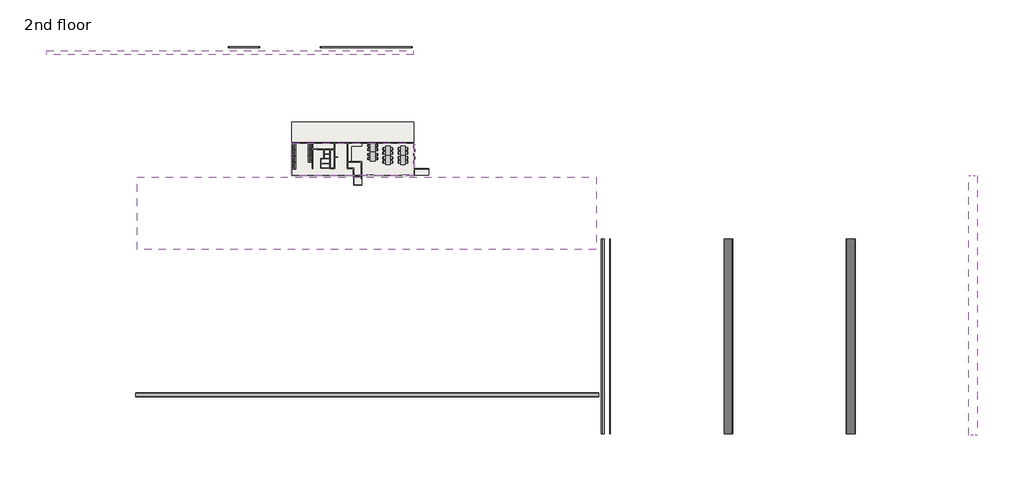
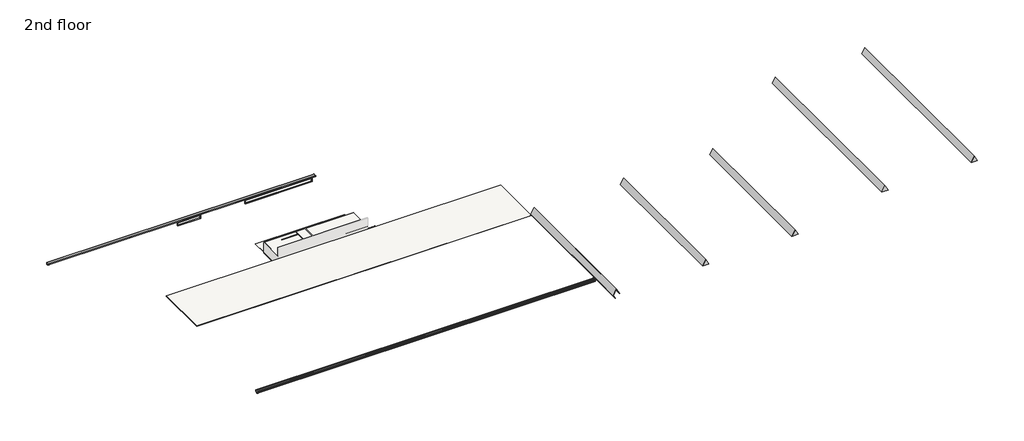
# One storey, part 2 of 2: 30 furniture elements, 12 proxies, 5 slabs, 4 members, 3 railings, 1 plate.
"""IFC4 building model written with IfcOpenShell, lengths in millimetres."""

from ifc_helpers import new_model, si_unit, frame, origin, place, context, project, spatial, polyline, outline, extrude, faceted_brep, transform, mapped, element, save
from components import generic_models_18_generic_models_2_20c2d646, generic_models_19_generic_models_2_e4446f8d, generic_models_27_generic_models_12_64bb000c, generic_models_28_generic_models_12_b416c1af, generic_models_43_generic_models_43_56a40571, locker_locker_ffae811c, desk_900x1800_desk_900x1800_b530369f, m_chair_desk_desk_chair_ccc35c8f, m_chair_desk_desk_chair_1723cfae, rectangular_mullion_50_x_150mm_6053375a, rectangular_mullion_50_x_150mm_cc4d4c51, rectangular_mullion_50_x_150mm_379ba6c0, rectangular_mullion_50_x_150mm_e3a7335b, system_panel_glazed_3a8728e6

model = new_model("IFC4")

# Units and contexts
model_context = context("Model", 3, world=origin())
ifc_project = project(units=[si_unit("LENGTHUNIT", "METRE", prefix="MILLI")], contexts=[model_context])

# Site, building, storey
site = spatial("IfcSite", under=ifc_project)
building = spatial("IfcBuilding", under=site)
storey = spatial("IfcBuildingStorey", under=building, Name="2nd floor", Elevation=51027.1066037)

# Proxies
placement = place(None, origin())
generic_models_18_generic_models_2_shape = generic_models_18_generic_models_2_20c2d646(model_context)
element("IfcBuildingElementProxy", 1, Name="Generic Models 18 : Generic Models 2", ObjectType="Generic Models 18 : Generic Models 2", at=placement, inside=storey, context=model_context, shape_type="MappedRepresentation", body=[
    mapped(generic_models_18_generic_models_2_shape, transform((0.0, 0.0, 0.0), x_axis=(1.0, 0.0, 0.0), y_axis=(0.0, 1.0, 0.0), z_axis=(0.0, 0.0, 1.0))),
])
generic_models_19_generic_models_2_shape = generic_models_19_generic_models_2_e4446f8d(model_context)
element("IfcBuildingElementProxy", 2, Name="Generic Models 19 : Generic Models 2", ObjectType="Generic Models 19 : Generic Models 2", at=placement, inside=storey, context=model_context, shape_type="MappedRepresentation", body=[
    mapped(generic_models_19_generic_models_2_shape, transform((0.0, 0.0, 25.6339497), x_axis=(1.0, 0.0, 0.0), y_axis=(0.0, 1.0, 0.0), z_axis=(0.0, 0.0, 1.0))),
])
generic_models_27_generic_models_12_shape = generic_models_27_generic_models_12_64bb000c(model_context)
element("IfcBuildingElementProxy", 3, Name="Generic Models 27 : Generic Models 12", ObjectType="Generic Models 27 : Generic Models 12", at=placement, inside=storey, context=model_context, shape_type="MappedRepresentation", body=[
    mapped(generic_models_27_generic_models_12_shape, transform((0.0, 576.4746492, 1102.1844419), x_axis=(1.0, 0.0, 0.0), y_axis=(0.0, 1.0, 0.0), z_axis=(0.0, 0.0, 1.0))),
])
generic_models_28_generic_models_12_shape = generic_models_28_generic_models_12_b416c1af(model_context)
element("IfcBuildingElementProxy", 4, Name="Generic Models 28 : Generic Models 12", ObjectType="Generic Models 28 : Generic Models 12", at=placement, inside=storey, context=model_context, shape_type="MappedRepresentation", body=[
    mapped(generic_models_28_generic_models_12_shape, transform((0.0, 0.0, 1080.0), x_axis=(1.0, 0.0, 0.0), y_axis=(0.0, 1.0, 0.0), z_axis=(0.0, 0.0, 1.0))),
])
generic_models_43_generic_models_43_shape = generic_models_43_generic_models_43_56a40571(model_context)
element("IfcBuildingElementProxy", 5, Name="Generic Models 43 : Generic Models 43", ObjectType="Generic Models 43 : Generic Models 43", at=placement, inside=storey, context=model_context, shape_type="MappedRepresentation", body=[
    mapped(generic_models_43_generic_models_43_shape, transform((0.0, 0.0, 0.0), x_axis=(1.0, 0.0, 0.0), y_axis=(0.0, 1.0, 0.0), z_axis=(0.0, 0.0, 1.0))),
])
locker_locker_shape = locker_locker_ffae811c(model_context)
element("IfcBuildingElementProxy", 6, Name="locker : locker", ObjectType="locker : locker", at=placement, inside=storey, context=model_context, shape_type="MappedRepresentation", body=[
    mapped(locker_locker_shape, transform((-104056.9479578, 17599.2679026, 51027.1066037), x_axis=(0.0, 1.0000000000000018, 0.0), y_axis=(-1.0000000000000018, 0.0, 0.0), z_axis=(0.0, 0.0, 1.0))),
])
element("IfcBuildingElementProxy", 7, Name="locker : locker", ObjectType="locker : locker", at=placement, inside=storey, context=model_context, shape_type="MappedRepresentation", body=[
    mapped(locker_locker_shape, transform((-101608.8199239, 16469.2679026, 51027.1066037), x_axis=(0.0, -1.0000000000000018, 0.0), y_axis=(1.0000000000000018, 0.0, 0.0), z_axis=(0.0, 0.0, 1.0))),
])
element("IfcBuildingElementProxy", 8, Name="locker : locker", ObjectType="locker : locker", at=placement, inside=storey, context=model_context, shape_type="MappedRepresentation", body=[
    mapped(locker_locker_shape, transform((-101608.8199239, 15249.2679026, 51027.1066037), x_axis=(0.0, -1.0000000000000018, 0.0), y_axis=(1.0000000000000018, 0.0, 0.0), z_axis=(0.0, 0.0, 1.0))),
])
element("IfcBuildingElementProxy", 9, Name="locker : locker", ObjectType="locker : locker", at=placement, inside=storey, context=model_context, shape_type="MappedRepresentation", body=[
    mapped(locker_locker_shape, transform((-104056.9479578, 13904.9212685, 51027.1066037), x_axis=(0.0, 1.0000000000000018, 0.0), y_axis=(-1.0000000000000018, 0.0, 0.0), z_axis=(0.0, 0.0, 1.0))),
])
element("IfcBuildingElementProxy", 10, Name="locker : locker", ObjectType="locker : locker", at=placement, inside=storey, context=model_context, shape_type="MappedRepresentation", body=[
    mapped(locker_locker_shape, transform((-104056.9479578, 15124.9212685, 51027.1066037), x_axis=(0.0, 1.0000000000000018, 0.0), y_axis=(-1.0000000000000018, 0.0, 0.0), z_axis=(0.0, 0.0, 1.0))),
])
element("IfcBuildingElementProxy", 11, Name="locker : locker", ObjectType="locker : locker", at=placement, inside=storey, context=model_context, shape_type="MappedRepresentation", body=[
    mapped(locker_locker_shape, transform((-104056.9479578, 16344.9212685, 51027.1066037), x_axis=(0.0, 1.0000000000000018, 0.0), y_axis=(-1.0000000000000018, 0.0, 0.0), z_axis=(0.0, 0.0, 1.0))),
])
element("IfcBuildingElementProxy", 12, Name="locker : locker", ObjectType="locker : locker", at=placement, inside=storey, context=model_context, shape_type="MappedRepresentation", body=[
    mapped(locker_locker_shape, transform((-101608.8199239, 17689.2679026, 51027.1066037), x_axis=(0.0, -1.0000000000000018, 0.0), y_axis=(1.0000000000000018, 0.0, 0.0), z_axis=(0.0, 0.0, 1.0))),
])

# Furniture
desk_900x1800_desk_900x1800_shape = desk_900x1800_desk_900x1800_b530369f(model_context)
element("IfcFurniture", 13, ObjectType="Desk 900x1800 : Desk 900x1800", at=placement, inside=storey, context=model_context, shape_type="MappedRepresentation", body=[
    mapped(desk_900x1800_desk_900x1800_shape, transform((-89366.0817687, 17471.2743333, 51027.1066037), x_axis=(0.0, -1.0, 0.0), y_axis=(1.0, 0.0, 0.0), z_axis=(0.0, 0.0, 1.0))),
])
element("IfcFurniture", 14, ObjectType="Desk 900x1800 : Desk 900x1800", at=placement, inside=storey, context=model_context, shape_type="MappedRepresentation", body=[
    mapped(desk_900x1800_desk_900x1800_shape, transform((-89366.0817687, 15683.2807639, 51027.1066037), x_axis=(0.0, -1.0, 0.0), y_axis=(1.0, 0.0, 0.0), z_axis=(0.0, 0.0, 1.0))),
])
element("IfcFurniture", 15, ObjectType="Desk 900x1800 : Desk 900x1800", at=placement, inside=storey, context=model_context, shape_type="MappedRepresentation", body=[
    mapped(desk_900x1800_desk_900x1800_shape, transform((-86406.0817687, 16811.2743333, 51027.1066037), x_axis=(0.0, -1.0, 0.0), y_axis=(1.0, 0.0, 0.0), z_axis=(0.0, 0.0, 1.0))),
])
element("IfcFurniture", 16, ObjectType="Desk 900x1800 : Desk 900x1800", at=placement, inside=storey, context=model_context, shape_type="MappedRepresentation", body=[
    mapped(desk_900x1800_desk_900x1800_shape, transform((-86406.0817687, 15023.2807639, 51027.1066037), x_axis=(0.0, -1.0, 0.0), y_axis=(1.0, 0.0, 0.0), z_axis=(0.0, 0.0, 1.0))),
])
element("IfcFurniture", 17, ObjectType="Desk 900x1800 : Desk 900x1800", at=placement, inside=storey, context=model_context, shape_type="MappedRepresentation", body=[
    mapped(desk_900x1800_desk_900x1800_shape, transform((-83446.0817687, 16811.2743333, 51027.1066037), x_axis=(0.0, -1.0, 0.0), y_axis=(1.0, 0.0, 0.0), z_axis=(0.0, 0.0, 1.0))),
])
element("IfcFurniture", 18, ObjectType="Desk 900x1800 : Desk 900x1800", at=placement, inside=storey, context=model_context, shape_type="MappedRepresentation", body=[
    mapped(desk_900x1800_desk_900x1800_shape, transform((-83446.0817687, 15023.2807639, 51027.1066037), x_axis=(0.0, -1.0, 0.0), y_axis=(1.0, 0.0, 0.0), z_axis=(0.0, 0.0, 1.0))),
])
m_chair_desk_desk_chair_shape = m_chair_desk_desk_chair_ccc35c8f(model_context)
element("IfcFurniture", 19, ObjectType="M_Chair-Desk : Desk Chair", at=placement, inside=storey, context=model_context, shape_type="MappedRepresentation", body=[
    mapped(m_chair_desk_desk_chair_shape, transform((-88014.8817422, 17871.2743333, 51027.1066037), x_axis=(0.0, 1.0000000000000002, 0.0), y_axis=(-1.0000000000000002, 0.0, 0.0), z_axis=(0.0, 0.0, 1.0))),
])
element("IfcFurniture", 20, ObjectType="M_Chair-Desk : Desk Chair", at=placement, inside=storey, context=model_context, shape_type="MappedRepresentation", body=[
    mapped(m_chair_desk_desk_chair_shape, transform((-88014.8817422, 17091.2743333, 51027.1066037), x_axis=(0.0, 1.0000000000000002, 0.0), y_axis=(-1.0000000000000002, 0.0, 0.0), z_axis=(0.0, 0.0, 1.0))),
])
element("IfcFurniture", 21, ObjectType="M_Chair-Desk : Desk Chair", at=placement, inside=storey, context=model_context, shape_type="MappedRepresentation", body=[
    mapped(m_chair_desk_desk_chair_shape, transform((-88014.8817422, 16083.2807639, 51027.1066037), x_axis=(0.0, 1.0000000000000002, 0.0), y_axis=(-1.0000000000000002, 0.0, 0.0), z_axis=(0.0, 0.0, 1.0))),
])
element("IfcFurniture", 22, ObjectType="M_Chair-Desk : Desk Chair", at=placement, inside=storey, context=model_context, shape_type="MappedRepresentation", body=[
    mapped(m_chair_desk_desk_chair_shape, transform((-88014.8817422, 15303.2807639, 51027.1066037), x_axis=(0.0, 1.0000000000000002, 0.0), y_axis=(-1.0000000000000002, 0.0, 0.0), z_axis=(0.0, 0.0, 1.0))),
])
element("IfcFurniture", 23, ObjectType="M_Chair-Desk : Desk Chair", at=placement, inside=storey, context=model_context, shape_type="MappedRepresentation", body=[
    mapped(m_chair_desk_desk_chair_shape, transform((-85054.8817422, 17211.2743333, 51027.1066037), x_axis=(0.0, 1.0000000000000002, 0.0), y_axis=(-1.0000000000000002, 0.0, 0.0), z_axis=(0.0, 0.0, 1.0))),
])
element("IfcFurniture", 24, ObjectType="M_Chair-Desk : Desk Chair", at=placement, inside=storey, context=model_context, shape_type="MappedRepresentation", body=[
    mapped(m_chair_desk_desk_chair_shape, transform((-85054.8817422, 16431.2743333, 51027.1066037), x_axis=(0.0, 1.0000000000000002, 0.0), y_axis=(-1.0000000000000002, 0.0, 0.0), z_axis=(0.0, 0.0, 1.0))),
])
element("IfcFurniture", 25, ObjectType="M_Chair-Desk : Desk Chair", at=placement, inside=storey, context=model_context, shape_type="MappedRepresentation", body=[
    mapped(m_chair_desk_desk_chair_shape, transform((-85054.8817422, 15423.2807639, 51027.1066037), x_axis=(0.0, 1.0000000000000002, 0.0), y_axis=(-1.0000000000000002, 0.0, 0.0), z_axis=(0.0, 0.0, 1.0))),
])
element("IfcFurniture", 26, ObjectType="M_Chair-Desk : Desk Chair", at=placement, inside=storey, context=model_context, shape_type="MappedRepresentation", body=[
    mapped(m_chair_desk_desk_chair_shape, transform((-85054.8817422, 14643.2807639, 51027.1066037), x_axis=(0.0, 1.0000000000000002, 0.0), y_axis=(-1.0000000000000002, 0.0, 0.0), z_axis=(0.0, 0.0, 1.0))),
])
element("IfcFurniture", 27, ObjectType="M_Chair-Desk : Desk Chair", at=placement, inside=storey, context=model_context, shape_type="MappedRepresentation", body=[
    mapped(m_chair_desk_desk_chair_shape, transform((-82094.8817422, 17211.2743333, 51027.1066037), x_axis=(0.0, 1.0000000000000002, 0.0), y_axis=(-1.0000000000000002, 0.0, 0.0), z_axis=(0.0, 0.0, 1.0))),
])
element("IfcFurniture", 28, ObjectType="M_Chair-Desk : Desk Chair", at=placement, inside=storey, context=model_context, shape_type="MappedRepresentation", body=[
    mapped(m_chair_desk_desk_chair_shape, transform((-82094.8817422, 16431.2743333, 51027.1066037), x_axis=(0.0, 1.0000000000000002, 0.0), y_axis=(-1.0000000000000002, 0.0, 0.0), z_axis=(0.0, 0.0, 1.0))),
])
element("IfcFurniture", 29, ObjectType="M_Chair-Desk : Desk Chair", at=placement, inside=storey, context=model_context, shape_type="MappedRepresentation", body=[
    mapped(m_chair_desk_desk_chair_shape, transform((-82094.8817422, 15423.2807639, 51027.1066037), x_axis=(0.0, 1.0000000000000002, 0.0), y_axis=(-1.0000000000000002, 0.0, 0.0), z_axis=(0.0, 0.0, 1.0))),
])
element("IfcFurniture", 30, ObjectType="M_Chair-Desk : Desk Chair", at=placement, inside=storey, context=model_context, shape_type="MappedRepresentation", body=[
    mapped(m_chair_desk_desk_chair_shape, transform((-82094.8817422, 14643.2807639, 51027.1066037), x_axis=(0.0, 1.0000000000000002, 0.0), y_axis=(-1.0000000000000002, 0.0, 0.0), z_axis=(0.0, 0.0, 1.0))),
])
m_chair_desk_desk_chair_2_shape = m_chair_desk_desk_chair_1723cfae(model_context)
element("IfcFurniture", 31, ObjectType="M_Chair-Desk : Desk Chair", at=placement, inside=storey, context=model_context, shape_type="MappedRepresentation", body=[
    mapped(m_chair_desk_desk_chair_2_shape, transform((-89817.2817951, 17871.2743333, 51027.1066037), x_axis=(0.0, 1.0000000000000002, 0.0), y_axis=(-1.0000000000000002, 0.0, 0.0), z_axis=(0.0, 0.0, 1.0))),
])
element("IfcFurniture", 32, ObjectType="M_Chair-Desk : Desk Chair", at=placement, inside=storey, context=model_context, shape_type="MappedRepresentation", body=[
    mapped(m_chair_desk_desk_chair_2_shape, transform((-89817.2817951, 17091.2743333, 51027.1066037), x_axis=(0.0, 1.0000000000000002, 0.0), y_axis=(-1.0000000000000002, 0.0, 0.0), z_axis=(0.0, 0.0, 1.0))),
])
element("IfcFurniture", 33, ObjectType="M_Chair-Desk : Desk Chair", at=placement, inside=storey, context=model_context, shape_type="MappedRepresentation", body=[
    mapped(m_chair_desk_desk_chair_2_shape, transform((-89817.2817951, 16083.2807639, 51027.1066037), x_axis=(0.0, 1.0000000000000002, 0.0), y_axis=(-1.0000000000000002, 0.0, 0.0), z_axis=(0.0, 0.0, 1.0))),
])
element("IfcFurniture", 34, ObjectType="M_Chair-Desk : Desk Chair", at=placement, inside=storey, context=model_context, shape_type="MappedRepresentation", body=[
    mapped(m_chair_desk_desk_chair_2_shape, transform((-89817.2817951, 15303.2807639, 51027.1066037), x_axis=(0.0, 1.0000000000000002, 0.0), y_axis=(-1.0000000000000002, 0.0, 0.0), z_axis=(0.0, 0.0, 1.0))),
])
element("IfcFurniture", 35, ObjectType="M_Chair-Desk : Desk Chair", at=placement, inside=storey, context=model_context, shape_type="MappedRepresentation", body=[
    mapped(m_chair_desk_desk_chair_2_shape, transform((-86857.2817951, 17211.2743333, 51027.1066037), x_axis=(0.0, 1.0000000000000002, 0.0), y_axis=(-1.0000000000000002, 0.0, 0.0), z_axis=(0.0, 0.0, 1.0))),
])
element("IfcFurniture", 36, ObjectType="M_Chair-Desk : Desk Chair", at=placement, inside=storey, context=model_context, shape_type="MappedRepresentation", body=[
    mapped(m_chair_desk_desk_chair_2_shape, transform((-86857.2817951, 16431.2743333, 51027.1066037), x_axis=(0.0, 1.0000000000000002, 0.0), y_axis=(-1.0000000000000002, 0.0, 0.0), z_axis=(0.0, 0.0, 1.0))),
])
element("IfcFurniture", 37, ObjectType="M_Chair-Desk : Desk Chair", at=placement, inside=storey, context=model_context, shape_type="MappedRepresentation", body=[
    mapped(m_chair_desk_desk_chair_2_shape, transform((-86857.2817951, 15423.2807639, 51027.1066037), x_axis=(0.0, 1.0000000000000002, 0.0), y_axis=(-1.0000000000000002, 0.0, 0.0), z_axis=(0.0, 0.0, 1.0))),
])
element("IfcFurniture", 38, ObjectType="M_Chair-Desk : Desk Chair", at=placement, inside=storey, context=model_context, shape_type="MappedRepresentation", body=[
    mapped(m_chair_desk_desk_chair_2_shape, transform((-86857.2817951, 14643.2807639, 51027.1066037), x_axis=(0.0, 1.0000000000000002, 0.0), y_axis=(-1.0000000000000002, 0.0, 0.0), z_axis=(0.0, 0.0, 1.0))),
])
element("IfcFurniture", 39, ObjectType="M_Chair-Desk : Desk Chair", at=placement, inside=storey, context=model_context, shape_type="MappedRepresentation", body=[
    mapped(m_chair_desk_desk_chair_2_shape, transform((-83897.2817951, 17211.2743333, 51027.1066037), x_axis=(0.0, 1.0000000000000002, 0.0), y_axis=(-1.0000000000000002, 0.0, 0.0), z_axis=(0.0, 0.0, 1.0))),
])
element("IfcFurniture", 40, ObjectType="M_Chair-Desk : Desk Chair", at=placement, inside=storey, context=model_context, shape_type="MappedRepresentation", body=[
    mapped(m_chair_desk_desk_chair_2_shape, transform((-83897.2817951, 16431.2743333, 51027.1066037), x_axis=(0.0, 1.0000000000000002, 0.0), y_axis=(-1.0000000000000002, 0.0, 0.0), z_axis=(0.0, 0.0, 1.0))),
])
element("IfcFurniture", 41, ObjectType="M_Chair-Desk : Desk Chair", at=placement, inside=storey, context=model_context, shape_type="MappedRepresentation", body=[
    mapped(m_chair_desk_desk_chair_2_shape, transform((-83897.2817951, 15423.2807639, 51027.1066037), x_axis=(0.0, 1.0000000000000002, 0.0), y_axis=(-1.0000000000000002, 0.0, 0.0), z_axis=(0.0, 0.0, 1.0))),
])
element("IfcFurniture", 42, ObjectType="M_Chair-Desk : Desk Chair", at=placement, inside=storey, context=model_context, shape_type="MappedRepresentation", body=[
    mapped(m_chair_desk_desk_chair_2_shape, transform((-83897.2817951, 14643.2807639, 51027.1066037), x_axis=(0.0, 1.0000000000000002, 0.0), y_axis=(-1.0000000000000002, 0.0, 0.0), z_axis=(0.0, 0.0, 1.0))),
])

# Members
rectangular_mullion_50_x_150mm_shape = rectangular_mullion_50_x_150mm_6053375a(model_context)
element("IfcMember", 43, ObjectType="Rectangular Mullion : 50 x 150mm", at=placement, inside=storey, context=model_context, shape_type="MappedRepresentation", body=[
    mapped(rectangular_mullion_50_x_150mm_shape, transform((-80781.5917799, 16507.4703266, 52160.2281004), x_axis=(0.0, -1.0, 0.0), y_axis=(-1.0, 0.0, 0.0), z_axis=(0.0, 0.0, -1.0))),
])
rectangular_mullion_50_x_150mm_2_shape = rectangular_mullion_50_x_150mm_cc4d4c51(model_context)
element("IfcMember", 44, ObjectType="Rectangular Mullion : 50 x 150mm", at=placement, inside=storey, context=model_context, shape_type="MappedRepresentation", body=[
    mapped(rectangular_mullion_50_x_150mm_2_shape, transform((-80781.5917799, 18007.4703267, 53127.1066037), x_axis=(0.0, 1.0, 0.0), y_axis=(-1.0, 0.0, 0.0), z_axis=(0.0, 0.0, 1.0))),
])
rectangular_mullion_50_x_150mm_3_shape = rectangular_mullion_50_x_150mm_379ba6c0(model_context)
element("IfcMember", 45, ObjectType="Rectangular Mullion : 50 x 150mm", at=placement, inside=storey, context=model_context, shape_type="MappedRepresentation", body=[
    mapped(rectangular_mullion_50_x_150mm_3_shape, transform((-80781.5917799, 17957.4703267, 52160.2281004), x_axis=(0.0, 0.0, -1.0), y_axis=(-1.0, 0.0, 0.0), z_axis=(0.0, 1.0, 0.0))),
])
rectangular_mullion_50_x_150mm_4_shape = rectangular_mullion_50_x_150mm_e3a7335b(model_context)
element("IfcMember", 46, ObjectType="Rectangular Mullion : 50 x 150mm", at=placement, inside=storey, context=model_context, shape_type="MappedRepresentation", body=[
    mapped(rectangular_mullion_50_x_150mm_4_shape, transform((-80781.5917799, 16482.4703266, 52160.2281004), x_axis=(0.0, 0.0, -1.0), y_axis=(-1.0, 0.0, 0.0), z_axis=(0.0, 1.0, 0.0))),
])

# Plate
system_panel_glazed_shape = system_panel_glazed_3a8728e6(model_context)
element("IfcPlate", 47, ObjectType="System Panel : Glazed", at=placement, inside=storey, context=model_context, shape_type="MappedRepresentation", body=[
    mapped(system_panel_glazed_shape, transform((-80781.5917799, 17244.9703266, 52210.2281004), x_axis=(0.0, -1.0, 0.0), y_axis=(1.0, 0.0, 0.0), z_axis=(0.0, 0.0, 1.0))),
])

# Railings
element("IfcRailing", 48, ObjectType="1100mm", at=placement, inside=storey, context=model_context, shape_type="SolidModel", body=[
    faceted_brep([(-92637.4288687, 11969.2777512, 52127.1066037), (-92637.4288687, 11969.2777512, 52077.1066037), (-92687.4288687, 11969.2777512, 52077.1066037), (-92687.4288687, 11969.2777512, 52127.1066037), (-92637.4288687, 10122.101051, 52127.1066037), (-92637.4288687, 10122.101051, 52077.1066037), (-92687.4288687, 10072.101051, 52077.1066037), (-92687.4288687, 10072.101051, 52127.1066037), (-91119.0398328, 10122.101051, 52127.1066037), (-91119.0398328, 10072.101051, 52127.1066037), (-91119.0398328, 10072.101051, 52077.1066037), (-91119.0398328, 10122.101051, 52077.1066037)], [[[0, 1, 2, 3]], [[1, 0, 4, 5]], [[2, 1, 5, 6]], [[3, 2, 6, 7]], [[0, 3, 7, 4]], [[8, 9, 10, 11]], [[5, 4, 8, 11]], [[6, 5, 11, 10]], [[7, 6, 10, 9]], [[4, 7, 9, 8]]]),
    extrude(outline(polyline([(-91299.9288687, 10084.601051), (-91299.9288687, 10109.601051), (-91274.9288687, 10109.601051), (-91274.9288687, 10084.601051), (-91299.9288687, 10084.601051)])), frame((0.0, 0.0, 51027.1066037), z_axis=(0.0, 0.0, 1.0), x_axis=(1.0, 0.0, 0.0)), (0.0, 0.0, 1.0), 1050.0),
    extrude(outline(polyline([(-91574.9288687, 10084.601051), (-91574.9288687, 10109.601051), (-91549.9288687, 10109.601051), (-91549.9288687, 10084.601051), (-91574.9288687, 10084.601051)])), frame((0.0, 0.0, 51027.1066037), z_axis=(0.0, 0.0, 1.0), x_axis=(1.0, 0.0, 0.0)), (0.0, 0.0, 1.0), 1050.0),
    extrude(outline(polyline([(-91849.9288687, 10084.601051), (-91849.9288687, 10109.601051), (-91824.9288687, 10109.601051), (-91824.9288687, 10084.601051), (-91849.9288687, 10084.601051)])), frame((0.0, 0.0, 51027.1066037), z_axis=(0.0, 0.0, 1.0), x_axis=(1.0, 0.0, 0.0)), (0.0, 0.0, 1.0), 1050.0),
    extrude(outline(polyline([(-92124.9288687, 10084.601051), (-92124.9288687, 10109.601051), (-92099.9288687, 10109.601051), (-92099.9288687, 10084.601051), (-92124.9288687, 10084.601051)])), frame((0.0, 0.0, 51027.1066037), z_axis=(0.0, 0.0, 1.0), x_axis=(1.0, 0.0, 0.0)), (0.0, 0.0, 1.0), 1050.0),
    extrude(outline(polyline([(-92399.9288687, 10084.601051), (-92399.9288687, 10109.601051), (-92374.9288687, 10109.601051), (-92374.9288687, 10084.601051), (-92399.9288687, 10084.601051)])), frame((0.0, 0.0, 51027.1066037), z_axis=(0.0, 0.0, 1.0), x_axis=(1.0, 0.0, 0.0)), (0.0, 0.0, 1.0), 1050.0),
    extrude(outline(polyline([(-92674.9288687, 10331.7777512), (-92649.9288687, 10331.7777512), (-92649.9288687, 10306.7777512), (-92674.9288687, 10306.7777512), (-92674.9288687, 10331.7777512)])), frame((0.0, 0.0, 51027.1066037), z_axis=(0.0, 0.0, 1.0), x_axis=(1.0, 0.0, 0.0)), (0.0, 0.0, 1.0), 1050.0),
    extrude(outline(polyline([(-92674.9288687, 10606.7777512), (-92649.9288687, 10606.7777512), (-92649.9288687, 10581.7777512), (-92674.9288687, 10581.7777512), (-92674.9288687, 10606.7777512)])), frame((0.0, 0.0, 51027.1066037), z_axis=(0.0, 0.0, 1.0), x_axis=(1.0, 0.0, 0.0)), (0.0, 0.0, 1.0), 1050.0),
    extrude(outline(polyline([(-92674.9288687, 10881.7777512), (-92649.9288687, 10881.7777512), (-92649.9288687, 10856.7777512), (-92674.9288687, 10856.7777512), (-92674.9288687, 10881.7777512)])), frame((0.0, 0.0, 51027.1066037), z_axis=(0.0, 0.0, 1.0), x_axis=(1.0, 0.0, 0.0)), (0.0, 0.0, 1.0), 1050.0),
    extrude(outline(polyline([(-92674.9288687, 11156.7777512), (-92649.9288687, 11156.7777512), (-92649.9288687, 11131.7777512), (-92674.9288687, 11131.7777512), (-92674.9288687, 11156.7777512)])), frame((0.0, 0.0, 51027.1066037), z_axis=(0.0, 0.0, 1.0), x_axis=(1.0, 0.0, 0.0)), (0.0, 0.0, 1.0), 1050.0),
    extrude(outline(polyline([(-92674.9288687, 11431.7777512), (-92649.9288687, 11431.7777512), (-92649.9288687, 11406.7777512), (-92674.9288687, 11406.7777512), (-92674.9288687, 11431.7777512)])), frame((0.0, 0.0, 51027.1066037), z_axis=(0.0, 0.0, 1.0), x_axis=(1.0, 0.0, 0.0)), (0.0, 0.0, 1.0), 1050.0),
    extrude(outline(polyline([(-92674.9288687, 11706.7777512), (-92649.9288687, 11706.7777512), (-92649.9288687, 11681.7777512), (-92674.9288687, 11681.7777512), (-92674.9288687, 11706.7777512)])), frame((0.0, 0.0, 51027.1066037), z_axis=(0.0, 0.0, 1.0), x_axis=(1.0, 0.0, 0.0)), (0.0, 0.0, 1.0), 1050.0),
    extrude(outline(polyline([(-92674.9288687, 10109.601051), (-92649.9288687, 10109.601051), (-92649.9288687, 10084.601051), (-92674.9288687, 10084.601051), (-92674.9288687, 10109.601051)])), frame((0.0, 0.0, 51027.1066037), z_axis=(0.0, 0.0, 1.0), x_axis=(1.0, 0.0, 0.0)), (0.0, 0.0, 1.0), 1050.0),
    extrude(outline(polyline([(-91144.0398328, 10084.601051), (-91144.0398328, 10109.601051), (-91119.0398328, 10109.601051), (-91119.0398328, 10084.601051), (-91144.0398328, 10084.601051)])), frame((0.0, 0.0, 51027.1066037), z_axis=(0.0, 0.0, 1.0), x_axis=(1.0, 0.0, 0.0)), (0.0, 0.0, 1.0), 1050.0),
    extrude(outline(polyline([(-92674.9288687, 11969.2777512), (-92649.9288687, 11969.2777512), (-92649.9288687, 11944.2777512), (-92674.9288687, 11944.2777512), (-92674.9288687, 11969.2777512)])), frame((0.0, 0.0, 51027.1066037), z_axis=(0.0, 0.0, 1.0), x_axis=(1.0, 0.0, 0.0)), (0.0, 0.0, 1.0), 1050.0),
])
element("IfcRailing", 49, ObjectType="1100mm", at=placement, inside=storey, context=model_context, shape_type="SweptSolid", body=[
    extrude(outline(polyline([(-91094.0398328, 11389.2777512), (-91144.0398328, 11389.2777512), (-91144.0398328, 11969.2777512), (-91094.0398328, 11969.2777512), (-91094.0398328, 11389.2777512)])), frame((0.0, 0.0, 52077.1066037), z_axis=(0.0, 0.0, 1.0), x_axis=(1.0, 0.0, 0.0)), (0.0, 0.0, 1.0), 50.0),
    extrude(outline(polyline([(-91106.5398328, 11926.7777512), (-91131.5398328, 11926.7777512), (-91131.5398328, 11951.7777512), (-91106.5398328, 11951.7777512), (-91106.5398328, 11926.7777512)])), frame((0.0, 0.0, 51027.1066037), z_axis=(0.0, 0.0, 1.0), x_axis=(1.0, 0.0, 0.0)), (0.0, 0.0, 1.0), 1050.0),
    extrude(outline(polyline([(-91106.5398328, 11651.7777512), (-91131.5398328, 11651.7777512), (-91131.5398328, 11676.7777512), (-91106.5398328, 11676.7777512), (-91106.5398328, 11651.7777512)])), frame((0.0, 0.0, 51027.1066037), z_axis=(0.0, 0.0, 1.0), x_axis=(1.0, 0.0, 0.0)), (0.0, 0.0, 1.0), 1050.0),
    extrude(outline(polyline([(-91106.5398328, 11944.2777512), (-91131.5398328, 11944.2777512), (-91131.5398328, 11969.2777512), (-91106.5398328, 11969.2777512), (-91106.5398328, 11944.2777512)])), frame((0.0, 0.0, 51027.1066037), z_axis=(0.0, 0.0, 1.0), x_axis=(1.0, 0.0, 0.0)), (0.0, 0.0, 1.0), 1050.0),
    extrude(outline(polyline([(-91106.5398328, 11389.2777512), (-91131.5398328, 11389.2777512), (-91131.5398328, 11414.2777512), (-91106.5398328, 11414.2777512), (-91106.5398328, 11389.2777512)])), frame((0.0, 0.0, 51027.1066037), z_axis=(0.0, 0.0, 1.0), x_axis=(1.0, 0.0, 0.0)), (0.0, 0.0, 1.0), 1050.0),
])
element("IfcRailing", 50, ObjectType="1100mm", at=placement, inside=storey, context=model_context, shape_type="SweptSolid", body=[
    extrude(outline(polyline([(-77972.3616242, 13347.101051), (-77972.3616242, 13297.101051), (-80712.3616242, 13297.101051), (-80712.3616242, 13347.101051), (-77972.3616242, 13347.101051)])), frame((0.0, 0.0, 52077.1066037), z_axis=(0.0, 0.0, 1.0), x_axis=(1.0, 0.0, 0.0)), (0.0, 0.0, 1.0), 50.0),
    extrude(outline(polyline([(-80434.8616242, 13334.601051), (-80434.8616242, 13309.601051), (-80459.8616242, 13309.601051), (-80459.8616242, 13334.601051), (-80434.8616242, 13334.601051)])), frame((0.0, 0.0, 51027.1066037), z_axis=(0.0, 0.0, 1.0), x_axis=(1.0, 0.0, 0.0)), (0.0, 0.0, 1.0), 1050.0),
    extrude(outline(polyline([(-80159.8616242, 13334.601051), (-80159.8616242, 13309.601051), (-80184.8616242, 13309.601051), (-80184.8616242, 13334.601051), (-80159.8616242, 13334.601051)])), frame((0.0, 0.0, 51027.1066037), z_axis=(0.0, 0.0, 1.0), x_axis=(1.0, 0.0, 0.0)), (0.0, 0.0, 1.0), 1050.0),
    extrude(outline(polyline([(-79884.8616242, 13334.601051), (-79884.8616242, 13309.601051), (-79909.8616242, 13309.601051), (-79909.8616242, 13334.601051), (-79884.8616242, 13334.601051)])), frame((0.0, 0.0, 51027.1066037), z_axis=(0.0, 0.0, 1.0), x_axis=(1.0, 0.0, 0.0)), (0.0, 0.0, 1.0), 1050.0),
    extrude(outline(polyline([(-79609.8616242, 13334.601051), (-79609.8616242, 13309.601051), (-79634.8616242, 13309.601051), (-79634.8616242, 13334.601051), (-79609.8616242, 13334.601051)])), frame((0.0, 0.0, 51027.1066037), z_axis=(0.0, 0.0, 1.0), x_axis=(1.0, 0.0, 0.0)), (0.0, 0.0, 1.0), 1050.0),
    extrude(outline(polyline([(-79334.8616242, 13334.601051), (-79334.8616242, 13309.601051), (-79359.8616242, 13309.601051), (-79359.8616242, 13334.601051), (-79334.8616242, 13334.601051)])), frame((0.0, 0.0, 51027.1066037), z_axis=(0.0, 0.0, 1.0), x_axis=(1.0, 0.0, 0.0)), (0.0, 0.0, 1.0), 1050.0),
    extrude(outline(polyline([(-79059.8616242, 13334.601051), (-79059.8616242, 13309.601051), (-79084.8616242, 13309.601051), (-79084.8616242, 13334.601051), (-79059.8616242, 13334.601051)])), frame((0.0, 0.0, 51027.1066037), z_axis=(0.0, 0.0, 1.0), x_axis=(1.0, 0.0, 0.0)), (0.0, 0.0, 1.0), 1050.0),
    extrude(outline(polyline([(-78784.8616242, 13334.601051), (-78784.8616242, 13309.601051), (-78809.8616242, 13309.601051), (-78809.8616242, 13334.601051), (-78784.8616242, 13334.601051)])), frame((0.0, 0.0, 51027.1066037), z_axis=(0.0, 0.0, 1.0), x_axis=(1.0, 0.0, 0.0)), (0.0, 0.0, 1.0), 1050.0),
    extrude(outline(polyline([(-78509.8616242, 13334.601051), (-78509.8616242, 13309.601051), (-78534.8616242, 13309.601051), (-78534.8616242, 13334.601051), (-78509.8616242, 13334.601051)])), frame((0.0, 0.0, 51027.1066037), z_axis=(0.0, 0.0, 1.0), x_axis=(1.0, 0.0, 0.0)), (0.0, 0.0, 1.0), 1050.0),
    extrude(outline(polyline([(-78234.8616242, 13334.601051), (-78234.8616242, 13309.601051), (-78259.8616242, 13309.601051), (-78259.8616242, 13334.601051), (-78234.8616242, 13334.601051)])), frame((0.0, 0.0, 51027.1066037), z_axis=(0.0, 0.0, 1.0), x_axis=(1.0, 0.0, 0.0)), (0.0, 0.0, 1.0), 1050.0),
    extrude(outline(polyline([(-80687.3616242, 13334.601051), (-80687.3616242, 13309.601051), (-80712.3616242, 13309.601051), (-80712.3616242, 13334.601051), (-80687.3616242, 13334.601051)])), frame((0.0, 0.0, 51027.1066037), z_axis=(0.0, 0.0, 1.0), x_axis=(1.0, 0.0, 0.0)), (0.0, 0.0, 1.0), 1050.0),
    extrude(outline(polyline([(-77972.3616242, 13334.601051), (-77972.3616242, 13309.601051), (-77997.3616242, 13309.601051), (-77997.3616242, 13334.601051), (-77972.3616242, 13334.601051)])), frame((0.0, 0.0, 51027.1066037), z_axis=(0.0, 0.0, 1.0), x_axis=(1.0, 0.0, 0.0)), (0.0, 0.0, 1.0), 1050.0),
])

# Slabs
element("IfcSlab", 51, ObjectType="isopanel ceiling", at=placement, inside=storey, context=model_context, shape_type="SweptSolid", body=[
    extrude(outline(polyline([(-45100.5917799, 11678.2777512), (-45100.5917799, -2521.740321), (-135100.5917799, -2521.740321), (-135100.5917799, 11678.2777512), (-45100.5917799, 11678.2777512)])), frame((0.0, 0.0, 53170.0), z_axis=(0.0, 0.0, 1.0), x_axis=(1.0, 0.0, 0.0)), (0.0, 0.0, 1.0), 100.0),
])
element("IfcSlab", 52, ObjectType="celing", at=placement, inside=storey, context=model_context, shape_type="SweptSolid", body=[
    extrude(outline(polyline([(-104847.9372768, 18469.2777512), (-104847.9372768, 22457.4703267), (-80897.1407976, 22457.4703267), (-80897.1407976, 18469.2777512), (-104847.9372768, 18469.2777512)])), frame((0.0, 0.0, 50827.1066037), z_axis=(0.0, 0.0, 1.0), x_axis=(1.0, 0.0, 0.0)), (0.0, 0.0, 1.0), 50.0),
])
element("IfcSlab", 53, ObjectType="celing", at=placement, inside=storey, context=model_context, shape_type="SweptSolid", body=[
    extrude(outline(polyline([(-104847.9372768, 12008.2777512), (-104847.9372768, 18369.2777512), (-80897.1407976, 18369.2777512), (-80897.1407976, 12008.2777512), (-104847.9372768, 12008.2777512)])), frame((0.0, 0.0, 53827.1066037), z_axis=(0.0, 0.0, 1.0), x_axis=(1.0, 0.0, 0.0)), (0.0, 0.0, 1.0), 50.0),
])
element("IfcSlab", 54, ObjectType="Counter", at=placement, inside=storey, context=model_context, shape_type="SweptSolid", body=[
    extrude(outline(polyline([(-91088.6417098, 18369.2777512), (-91088.6417098, 17719.2679026), (-93164.1593607, 17719.2679026), (-93164.1593607, 14719.2679026), (-93808.8066175, 14719.2679026), (-93808.8066175, 18369.2777512), (-91088.6417098, 18369.2777512)])), frame((0.0, 0.0, 51777.1066037), z_axis=(0.0, 0.0, 1.0), x_axis=(1.0, 0.0, 0.0)), (0.0, 0.0, 1.0), 50.0),
])
element("IfcSlab", 55, ObjectType="Mezz", at=placement, inside=storey, context=model_context, shape_type="SweptSolid", body=[
    extrude(outline(polyline([(-104947.9372768, 18469.2777512), (-80897.1407976, 18469.2777512), (-80897.1407976, 13289.2777512), (-77968.5913038, 13289.2777512), (-77968.5913038, 12097.101051), (-91119.0398328, 12097.101051), (-91119.0398328, 10097.101051), (-92674.9288687, 10097.101051), (-92674.9288687, 12097.101051), (-104947.9372768, 12097.101051), (-104947.9372768, 18469.2777512)])), frame((0.0, 0.0, 50827.1066037), z_axis=(0.0, 0.0, 1.0), x_axis=(1.0, 0.0, 0.0)), (0.0, 0.0, 1.0), 200.0),
])

save(model, "model.ifc")
